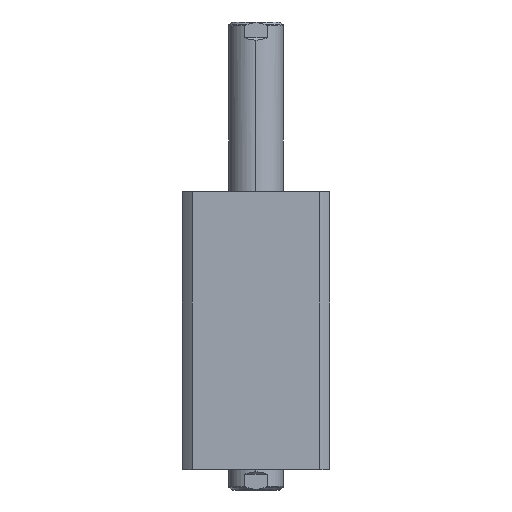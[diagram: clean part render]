
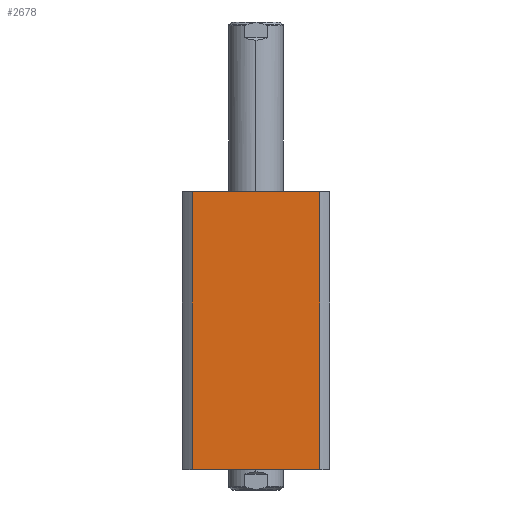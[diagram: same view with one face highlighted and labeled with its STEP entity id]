
A CAD part, left-side view. The second image highlights one B-rep face of the part: STEP entity #2678.
In plain terms, the highlighted planar face has unit normal (-1, 0, 0).
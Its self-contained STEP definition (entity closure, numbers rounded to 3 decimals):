
#558 = AXIS2_PLACEMENT_3D ( 'NONE', #18091, #1012, #10992 ) ;
#1012 = DIRECTION ( 'NONE',  ( 1., 0., 0. ) ) ;
#1023 = VERTEX_POINT ( 'NONE', #12154 ) ;
#1426 = EDGE_CURVE ( 'NONE', #17989, #13820, #8012, .T. ) ;
#1610 = CARTESIAN_POINT ( 'NONE',  ( -47., -40.435, 177. ) ) ;
#2630 = LINE ( 'NONE', #13125, #9757 ) ;
#2678 = ADVANCED_FACE ( 'NONE', ( #16297 ), #16660, .F. ) ;
#2943 = VECTOR ( 'NONE', #3170, 1000. ) ;
#3164 = EDGE_CURVE ( 'NONE', #15076, #13820, #6720, .T. ) ;
#3170 = DIRECTION ( 'NONE',  ( 0., -1., 0. ) ) ;
#3692 = ORIENTED_EDGE ( 'NONE', *, *, #1426, .F. ) ;
#5803 = CARTESIAN_POINT ( 'NONE',  ( -47., 40.435, 0. ) ) ;
#6144 = DIRECTION ( 'NONE',  ( 0., -1., 0. ) ) ;
#6276 = CARTESIAN_POINT ( 'NONE',  ( -47., 40.435, 300. ) ) ;
#6720 = LINE ( 'NONE', #10266, #2943 ) ;
#8012 = LINE ( 'NONE', #17699, #15150 ) ;
#9437 = ORIENTED_EDGE ( 'NONE', *, *, #11883, .F. ) ;
#9757 = VECTOR ( 'NONE', #6144, 1000. ) ;
#10266 = CARTESIAN_POINT ( 'NONE',  ( -47., 47., 0. ) ) ;
#10992 = DIRECTION ( 'NONE',  ( 0., 1., 0. ) ) ;
#11267 = ORIENTED_EDGE ( 'NONE', *, *, #18195, .F. ) ;
#11883 = EDGE_CURVE ( 'NONE', #1023, #17989, #2630, .T. ) ;
#11974 = ORIENTED_EDGE ( 'NONE', *, *, #3164, .T. ) ;
#12154 = CARTESIAN_POINT ( 'NONE',  ( -47., 40.435, 177. ) ) ;
#13125 = CARTESIAN_POINT ( 'NONE',  ( -47., 47., 177. ) ) ;
#13402 = DIRECTION ( 'NONE',  ( 0., 0., -1. ) ) ;
#13527 = CARTESIAN_POINT ( 'NONE',  ( -47., -40.435, 0. ) ) ;
#13820 = VERTEX_POINT ( 'NONE', #13527 ) ;
#14420 = EDGE_LOOP ( 'NONE', ( #3692, #9437, #11267, #11974 ) ) ;
#15076 = VERTEX_POINT ( 'NONE', #5803 ) ;
#15150 = VECTOR ( 'NONE', #13402, 1000. ) ;
#16249 = DIRECTION ( 'NONE',  ( 0., 0., 1. ) ) ;
#16297 = FACE_OUTER_BOUND ( 'NONE', #14420, .T. ) ;
#16660 = PLANE ( 'NONE',  #558 ) ;
#17600 = LINE ( 'NONE', #6276, #18032 ) ;
#17699 = CARTESIAN_POINT ( 'NONE',  ( -47., -40.435, 300. ) ) ;
#17989 = VERTEX_POINT ( 'NONE', #1610 ) ;
#18032 = VECTOR ( 'NONE', #16249, 1000. ) ;
#18091 = CARTESIAN_POINT ( 'NONE',  ( -47., 47., 177. ) ) ;
#18195 = EDGE_CURVE ( 'NONE', #15076, #1023, #17600, .T. ) ;
